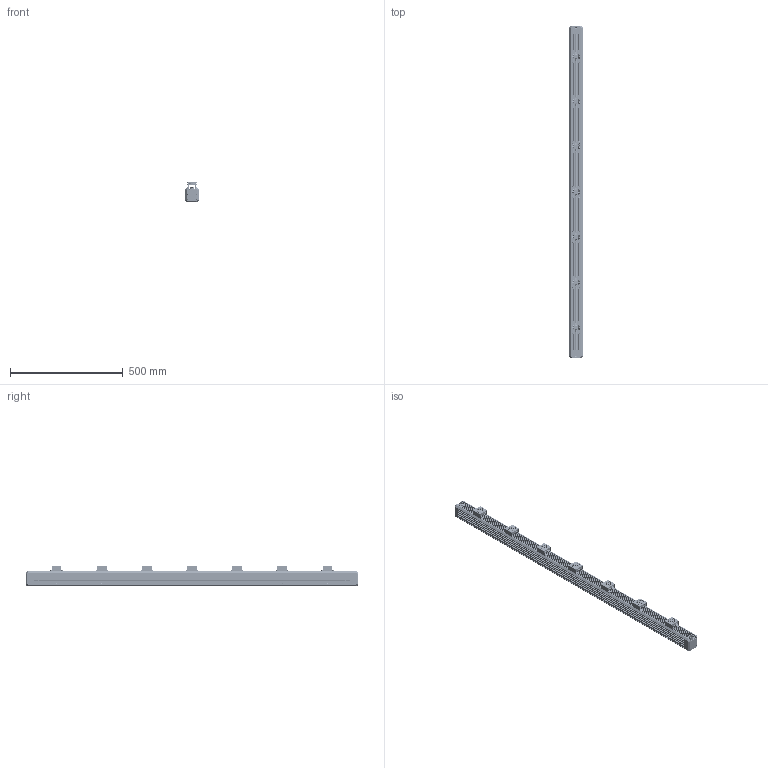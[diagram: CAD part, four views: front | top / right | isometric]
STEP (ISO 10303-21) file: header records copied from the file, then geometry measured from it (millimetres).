
FILE_DESCRIPTION((''),'2;1');
FILE_NAME('MV-LTDS-H-1400-W','2022-09-02T17:07:40',('huguozhe'),(''),'CREO PARAMETRIC BY PTC INC, 2020044','CREO PARAMETRIC BY PTC INC, 2020044','');
FILE_SCHEMA(('AUTOMOTIVE_DESIGN { 1 0 10303 214 1 1 1 1 }'));
Products named in the file (1): MV-LTDS-H-1400-W
Bounding box: 58 x 1470 x 90.6 mm (x, y, z)
Volume: 3915958.6 mm3; surface area: 1226671.2 mm2
Topology: 1 solids, 497 shells, 8016 faces, 20625 edges, 12858 vertices
Faces by surface type: plane 3790, cylinder 2804, cone 904, torus 418, bspline 100
Entity records: 293906 total; most frequent: CARTESIAN_POINT 60279, DIRECTION 43223, ORIENTED_EDGE 39130, EDGE_CURVE 20141, AXIS2_PLACEMENT_3D 16681, VERTEX_POINT 12858, VECTOR 9861, LINE 9861
